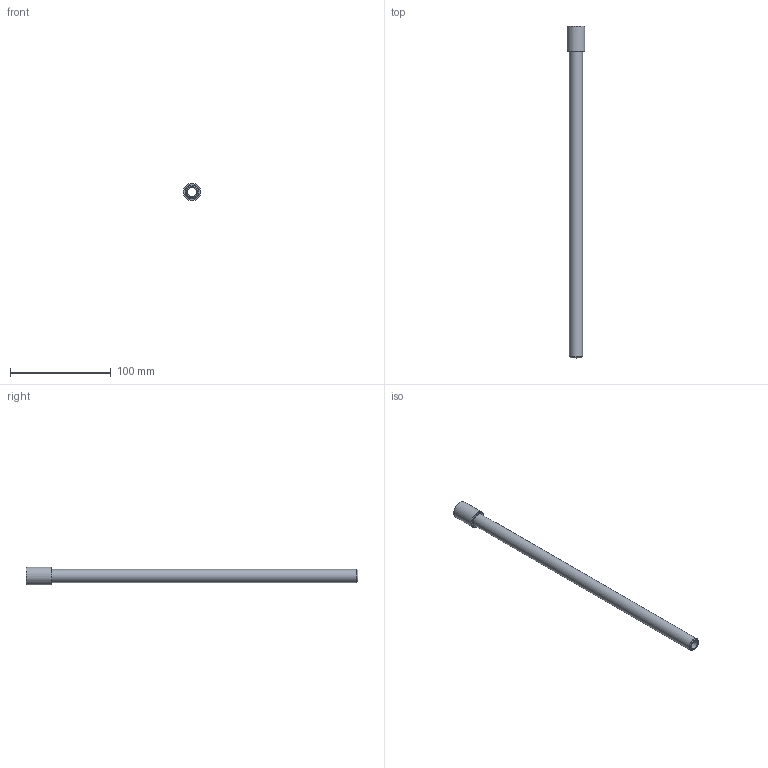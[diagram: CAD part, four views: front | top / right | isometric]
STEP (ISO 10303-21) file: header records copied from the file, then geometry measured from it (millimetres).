
FILE_DESCRIPTION(/* description */ (''),/* implementation_level */ '2;1');
FILE_NAME(/* name */ 'C:/Users/drich/Desktop/EP14X13 v1.step',/* time_stamp */ '2019-11-18T15:02:34-06:00',/* author */ (''),/* organization */ (''),/* preprocessor_version */ 'ST-DEVELOPER v18',/* originating_system */ 'Autodesk Translation Framework v8.12.0.6',/* authorisation */ '');
FILE_SCHEMA (('AUTOMOTIVE_DESIGN { 1 0 10303 214 3 1 1 }'));
Length unit declared in the file: inch
Products named in the file (2): EP14X13; EP14X4
Assembly tree (1 placements, depth 2):
  EP14X13
    EP14X4
Bounding box: 17.45 x 330.2 x 17.45 mm (x, y, z)
Volume: 26139.3 mm3; surface area: 23399.4 mm2
Topology: 1 solids, 1 shells, 23 faces, 55 edges, 37 vertices
Faces by surface type: plane 11, cone 7, cylinder 5
Full cylindrical faces by diameter (mm): 8.712 x1, 11.43 x1, 11.668 x1, 13.032 x1, 17.45 x1
Entity records: 740 total; most frequent: CARTESIAN_POINT 132, DIRECTION 124, ORIENTED_EDGE 110, EDGE_CURVE 55, AXIS2_PLACEMENT_3D 50, VERTEX_POINT 37, EDGE_LOOP 28, LINE 24
